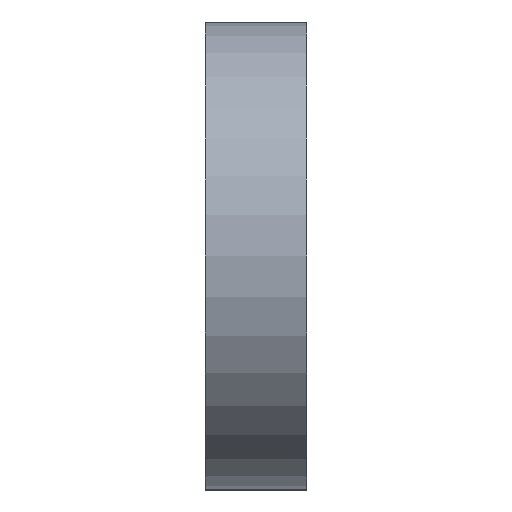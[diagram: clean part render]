
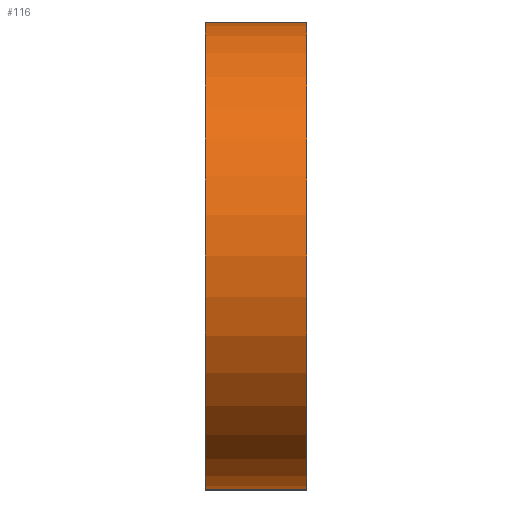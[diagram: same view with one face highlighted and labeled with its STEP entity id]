
A CAD part, left-side view. The second image highlights one B-rep face of the part: STEP entity #116.
In plain terms, the highlighted cylindrical face has radius 4.6 mm (diameter 9.2 mm), a partial arc.
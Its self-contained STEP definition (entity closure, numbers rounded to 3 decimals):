
#3 = DIRECTION ( 'NONE',  ( 0., -1., 0. ) ) ;
#28 = VERTEX_POINT ( 'NONE', #212 ) ;
#32 = ORIENTED_EDGE ( 'NONE', *, *, #379, .F. ) ;
#56 = CARTESIAN_POINT ( 'NONE',  ( -19., 2., 4.6 ) ) ;
#65 = AXIS2_PLACEMENT_3D ( 'NONE', #184, #311, #273 ) ;
#73 = ORIENTED_EDGE ( 'NONE', *, *, #313, .T. ) ;
#79 = DIRECTION ( 'NONE',  ( 0., -1., 0. ) ) ;
#80 = VECTOR ( 'NONE', #254, 1000. ) ;
#86 = ORIENTED_EDGE ( 'NONE', *, *, #188, .F. ) ;
#107 = CARTESIAN_POINT ( 'NONE',  ( -19., 0., 4.6 ) ) ;
#116 = ADVANCED_FACE ( 'NONE', ( #211 ), #148, .T. ) ;
#127 = CARTESIAN_POINT ( 'NONE',  ( -19., 2., 4.6 ) ) ;
#137 = VERTEX_POINT ( 'NONE', #56 ) ;
#139 = EDGE_CURVE ( 'NONE', #263, #169, #355, .T. ) ;
#141 = DIRECTION ( 'NONE',  ( 0., 0., 1. ) ) ;
#143 = CARTESIAN_POINT ( 'NONE',  ( -19., 2., 0. ) ) ;
#148 = CYLINDRICAL_SURFACE ( 'NONE', #163, 4.6 ) ;
#163 = AXIS2_PLACEMENT_3D ( 'NONE', #369, #79, #213 ) ;
#169 = VERTEX_POINT ( 'NONE', #107 ) ;
#176 = ORIENTED_EDGE ( 'NONE', *, *, #139, .T. ) ;
#184 = CARTESIAN_POINT ( 'NONE',  ( -19., 0., 0. ) ) ;
#188 = EDGE_CURVE ( 'NONE', #28, #137, #208, .T. ) ;
#189 = CARTESIAN_POINT ( 'NONE',  ( -19., 2., -4.6 ) ) ;
#196 = LINE ( 'NONE', #189, #294 ) ;
#208 = CIRCLE ( 'NONE', #258, 4.6 ) ;
#211 = FACE_OUTER_BOUND ( 'NONE', #325, .T. ) ;
#212 = CARTESIAN_POINT ( 'NONE',  ( -19., 2., -4.6 ) ) ;
#213 = DIRECTION ( 'NONE',  ( 0., 0., -1. ) ) ;
#235 = CARTESIAN_POINT ( 'NONE',  ( -19., 0., -4.6 ) ) ;
#237 = DIRECTION ( 'NONE',  ( 0., 1., 0. ) ) ;
#254 = DIRECTION ( 'NONE',  ( 0., -1., 0. ) ) ;
#258 = AXIS2_PLACEMENT_3D ( 'NONE', #143, #237, #141 ) ;
#263 = VERTEX_POINT ( 'NONE', #235 ) ;
#273 = DIRECTION ( 'NONE',  ( 0., 0., 1. ) ) ;
#294 = VECTOR ( 'NONE', #3, 1000. ) ;
#311 = DIRECTION ( 'NONE',  ( 0., 1., 0. ) ) ;
#313 = EDGE_CURVE ( 'NONE', #28, #263, #196, .T. ) ;
#325 = EDGE_LOOP ( 'NONE', ( #176, #32, #86, #73 ) ) ;
#355 = CIRCLE ( 'NONE', #65, 4.6 ) ;
#369 = CARTESIAN_POINT ( 'NONE',  ( -19., 2., 0. ) ) ;
#377 = LINE ( 'NONE', #127, #80 ) ;
#379 = EDGE_CURVE ( 'NONE', #137, #169, #377, .T. ) ;
